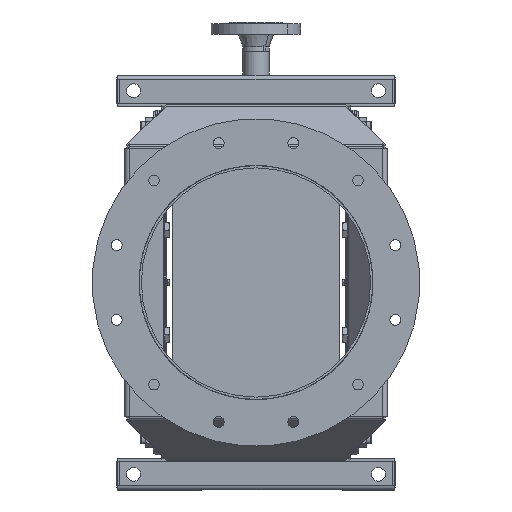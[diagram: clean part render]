
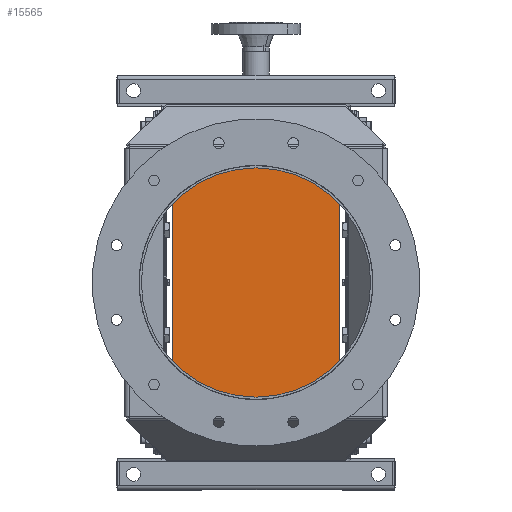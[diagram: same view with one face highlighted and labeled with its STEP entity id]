
A CAD part, front view. The second image highlights one B-rep face of the part: STEP entity #15565.
In plain terms, the highlighted planar face has unit normal (0, -1, 0).
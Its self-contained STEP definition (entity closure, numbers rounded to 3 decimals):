
#61 = EDGE_CURVE ( 'NONE', #17900, #12057, #19152, .T. ) ;
#310 = CARTESIAN_POINT ( 'NONE',  ( 107., -294., -472. ) ) ;
#329 = VERTEX_POINT ( 'NONE', #6488 ) ;
#888 = DIRECTION ( 'NONE',  ( 0., 1., 0. ) ) ;
#1036 = DIRECTION ( 'NONE',  ( 0., 0., 1. ) ) ;
#1620 = CARTESIAN_POINT ( 'NONE',  ( -107., -294., -20. ) ) ;
#2058 = VERTEX_POINT ( 'NONE', #13503 ) ;
#3437 = ORIENTED_EDGE ( 'NONE', *, *, #9684, .F. ) ;
#3562 = VECTOR ( 'NONE', #21524, 1000. ) ;
#4205 = AXIS2_PLACEMENT_3D ( 'NONE', #18730, #888, #1036 ) ;
#5840 = ORIENTED_EDGE ( 'NONE', *, *, #61, .T. ) ;
#6488 = CARTESIAN_POINT ( 'NONE',  ( -107., -294., -472. ) ) ;
#7293 = EDGE_CURVE ( 'NONE', #2058, #17900, #18940, .T. ) ;
#8103 = CARTESIAN_POINT ( 'NONE',  ( 107., -294., -472. ) ) ;
#8132 = EDGE_CURVE ( 'NONE', #2058, #329, #18634, .T. ) ;
#8348 = CARTESIAN_POINT ( 'NONE',  ( 107., -294., -20. ) ) ;
#8780 = LINE ( 'NONE', #18074, #21147 ) ;
#9639 = VECTOR ( 'NONE', #13717, 1000. ) ;
#9684 = EDGE_CURVE ( 'NONE', #329, #12057, #8780, .T. ) ;
#10084 = EDGE_LOOP ( 'NONE', ( #5840, #3437, #20736, #14067 ) ) ;
#10965 = DIRECTION ( 'NONE',  ( 0., 0., 1. ) ) ;
#11788 = FACE_OUTER_BOUND ( 'NONE', #10084, .T. ) ;
#12057 = VERTEX_POINT ( 'NONE', #1620 ) ;
#13503 = CARTESIAN_POINT ( 'NONE',  ( 107., -294., -472. ) ) ;
#13717 = DIRECTION ( 'NONE',  ( -1., 0., 0. ) ) ;
#14067 = ORIENTED_EDGE ( 'NONE', *, *, #7293, .T. ) ;
#14698 = VECTOR ( 'NONE', #17068, 1000. ) ;
#15565 = ADVANCED_FACE ( 'NONE', ( #11788 ), #18889, .F. ) ;
#17068 = DIRECTION ( 'NONE',  ( -1., 0., 0. ) ) ;
#17168 = CARTESIAN_POINT ( 'NONE',  ( 107., -294., -20. ) ) ;
#17900 = VERTEX_POINT ( 'NONE', #8348 ) ;
#18074 = CARTESIAN_POINT ( 'NONE',  ( -107., -294., -472. ) ) ;
#18634 = LINE ( 'NONE', #8103, #14698 ) ;
#18730 = CARTESIAN_POINT ( 'NONE',  ( 107., -294., -472. ) ) ;
#18889 = PLANE ( 'NONE',  #4205 ) ;
#18940 = LINE ( 'NONE', #310, #3562 ) ;
#19152 = LINE ( 'NONE', #17168, #9639 ) ;
#20736 = ORIENTED_EDGE ( 'NONE', *, *, #8132, .F. ) ;
#21147 = VECTOR ( 'NONE', #10965, 1000. ) ;
#21524 = DIRECTION ( 'NONE',  ( 0., 0., 1. ) ) ;
